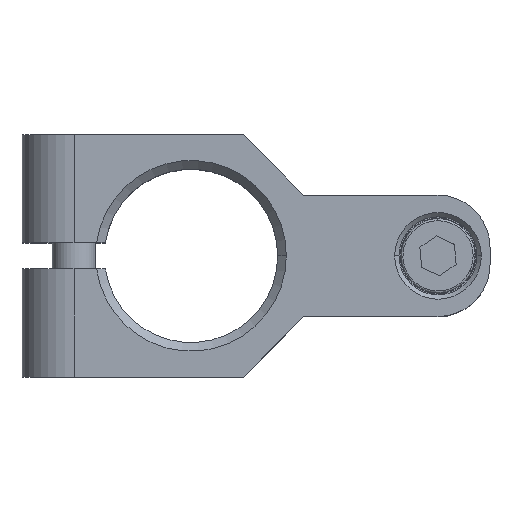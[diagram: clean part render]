
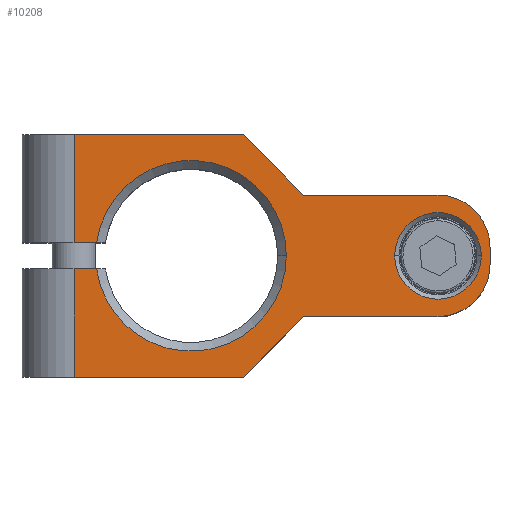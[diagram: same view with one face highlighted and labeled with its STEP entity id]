
A CAD part, top view. The second image highlights one B-rep face of the part: STEP entity #10208.
In plain terms, the highlighted planar face has unit normal (0, 0, 1).
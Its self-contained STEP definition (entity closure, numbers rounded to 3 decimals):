
#20 = VECTOR ( 'NONE', #1610, 1000. ) ;
#116 = ORIENTED_EDGE ( 'NONE', *, *, #12884, .F. ) ;
#213 = CARTESIAN_POINT ( 'NONE',  ( -15.556, 11.163, 9.5 ) ) ;
#309 = AXIS2_PLACEMENT_3D ( 'NONE', #6648, #19319, #8435 ) ;
#373 = CARTESIAN_POINT ( 'NONE',  ( -39.556, 26.663, 9.5 ) ) ;
#493 = CARTESIAN_POINT ( 'NONE',  ( 2.444, 12.663, 9.5 ) ) ;
#746 = EDGE_CURVE ( 'NONE', #13870, #18005, #5493, .T. ) ;
#819 = DIRECTION ( 'NONE',  ( 0., 0., 1. ) ) ;
#975 = DIRECTION ( 'NONE',  ( 1., 0., 0. ) ) ;
#1004 = EDGE_CURVE ( 'NONE', #2306, #18501, #6048, .T. ) ;
#1060 = CARTESIAN_POINT ( 'NONE',  ( -26.056, 12.663, 9.5 ) ) ;
#1142 = VERTEX_POINT ( 'NONE', #18780 ) ;
#1179 = DIRECTION ( 'NONE',  ( -1., 0., 0. ) ) ;
#1347 = CARTESIAN_POINT ( 'NONE',  ( -20.056, 26.663, 9.5 ) ) ;
#1497 = EDGE_CURVE ( 'NONE', #8420, #8705, #19043, .T. ) ;
#1610 = DIRECTION ( 'NONE',  ( 0., 1., 0. ) ) ;
#1637 = CARTESIAN_POINT ( 'NONE',  ( 8.444, 11.663, 9.5 ) ) ;
#2019 = AXIS2_PLACEMENT_3D ( 'NONE', #7343, #20011, #9150 ) ;
#2101 = DIRECTION ( 'NONE',  ( -1., 0., 0. ) ) ;
#2103 = ORIENTED_EDGE ( 'NONE', *, *, #746, .F. ) ;
#2236 = EDGE_CURVE ( 'NONE', #2692, #18965, #3692, .T. ) ;
#2306 = VERTEX_POINT ( 'NONE', #7482 ) ;
#2361 = DIRECTION ( 'NONE',  ( 1., 0., 0. ) ) ;
#2692 = VERTEX_POINT ( 'NONE', #1637 ) ;
#3238 = AXIS2_PLACEMENT_3D ( 'NONE', #3519, #16190, #5351 ) ;
#3373 = VECTOR ( 'NONE', #22450, 1000. ) ;
#3465 = EDGE_CURVE ( 'NONE', #18965, #2306, #22355, .T. ) ;
#3519 = CARTESIAN_POINT ( 'NONE',  ( 8.444, -1.337, 9.5 ) ) ;
#3520 = DIRECTION ( 'NONE',  ( 1., 0., 0. ) ) ;
#3594 = DIRECTION ( 'NONE',  ( 0., 0., 1. ) ) ;
#3683 = CARTESIAN_POINT ( 'NONE',  ( 2.444, 12.663, 9.5 ) ) ;
#3692 = CIRCLE ( 'NONE', #16354, 6. ) ;
#4304 = CARTESIAN_POINT ( 'NONE',  ( 8.444, 12.663, 9.5 ) ) ;
#4884 = CARTESIAN_POINT ( 'NONE',  ( -39.556, 14.163, 9.5 ) ) ;
#5010 = DIRECTION ( 'NONE',  ( 0.707, -0.707, 0. ) ) ;
#5018 = VECTOR ( 'NONE', #2101, 1000. ) ;
#5214 = ORIENTED_EDGE ( 'NONE', *, *, #17713, .F. ) ;
#5258 = CARTESIAN_POINT ( 'NONE',  ( -36.953, 11.163, 9.5 ) ) ;
#5351 = DIRECTION ( 'NONE',  ( -1., 0., 0. ) ) ;
#5462 = EDGE_CURVE ( 'NONE', #8000, #1142, #8153, .T. ) ;
#5493 = CIRCLE ( 'NONE', #6972, 11. ) ;
#5571 = LINE ( 'NONE', #11300, #5018 ) ;
#5743 = EDGE_CURVE ( 'NONE', #6870, #8000, #10372, .T. ) ;
#6027 = EDGE_LOOP ( 'NONE', ( #7207, #13741, #5214, #2103, #17123, #116, #15106, #18000, #9473, #10616, #16571, #11265, #18348, #18931, #6172 ) ) ;
#6048 = LINE ( 'NONE', #13155, #19933 ) ;
#6172 = ORIENTED_EDGE ( 'NONE', *, *, #11561, .F. ) ;
#6648 = CARTESIAN_POINT ( 'NONE',  ( 2.444, 13.663, 9.5 ) ) ;
#6763 = DIRECTION ( 'NONE',  ( 1., 0., 0. ) ) ;
#6779 = VERTEX_POINT ( 'NONE', #14196 ) ;
#6870 = VERTEX_POINT ( 'NONE', #9343 ) ;
#6972 = AXIS2_PLACEMENT_3D ( 'NONE', #1060, #819, #975 ) ;
#7175 = EDGE_CURVE ( 'NONE', #9929, #13870, #8395, .T. ) ;
#7207 = ORIENTED_EDGE ( 'NONE', *, *, #22040, .F. ) ;
#7343 = CARTESIAN_POINT ( 'NONE',  ( -26.056, 12.663, 9.5 ) ) ;
#7415 = EDGE_CURVE ( 'NONE', #18501, #15048, #15134, .T. ) ;
#7482 = CARTESIAN_POINT ( 'NONE',  ( -13.056, 5.663, 9.5 ) ) ;
#7756 = EDGE_CURVE ( 'NONE', #6779, #17027, #5571, .T. ) ;
#8000 = VERTEX_POINT ( 'NONE', #10149 ) ;
#8031 = VECTOR ( 'NONE', #9536, 1000. ) ;
#8153 = LINE ( 'NONE', #21262, #12430 ) ;
#8395 = LINE ( 'NONE', #213, #18040 ) ;
#8420 = VERTEX_POINT ( 'NONE', #9167 ) ;
#8435 = DIRECTION ( 'NONE',  ( -1., 0., 0. ) ) ;
#8437 = VECTOR ( 'NONE', #1179, 1000. ) ;
#8705 = VERTEX_POINT ( 'NONE', #10178 ) ;
#8754 = VECTOR ( 'NONE', #12758, 1000. ) ;
#8759 = VERTEX_POINT ( 'NONE', #10332 ) ;
#9150 = DIRECTION ( 'NONE',  ( 1., 0., 0. ) ) ;
#9167 = CARTESIAN_POINT ( 'NONE',  ( 7.444, 12.663, 9.5 ) ) ;
#9169 = DIRECTION ( 'NONE',  ( 1., 0., 0. ) ) ;
#9343 = CARTESIAN_POINT ( 'NONE',  ( -20.056, 26.663, 9.5 ) ) ;
#9473 = ORIENTED_EDGE ( 'NONE', *, *, #3465, .F. ) ;
#9536 = DIRECTION ( 'NONE',  ( 1., 0., 0. ) ) ;
#9812 = AXIS2_PLACEMENT_3D ( 'NONE', #493, #13213, #2361 ) ;
#9929 = VERTEX_POINT ( 'NONE', #22509 ) ;
#10021 = DIRECTION ( 'NONE',  ( -1., 0., 0. ) ) ;
#10149 = CARTESIAN_POINT ( 'NONE',  ( -13.056, 19.663, 9.5 ) ) ;
#10178 = CARTESIAN_POINT ( 'NONE',  ( -2.556, 12.663, 9.5 ) ) ;
#10208 = ADVANCED_FACE ( 'NONE', ( #17234, #22082 ), #19771, .F. ) ;
#10332 = CARTESIAN_POINT ( 'NONE',  ( 8.444, 13.663, 9.5 ) ) ;
#10338 = VECTOR ( 'NONE', #10021, 1000. ) ;
#10372 = LINE ( 'NONE', #1347, #14596 ) ;
#10616 = ORIENTED_EDGE ( 'NONE', *, *, #2236, .F. ) ;
#11265 = ORIENTED_EDGE ( 'NONE', *, *, #12757, .F. ) ;
#11300 = CARTESIAN_POINT ( 'NONE',  ( -15.556, 14.163, 9.5 ) ) ;
#11561 = EDGE_CURVE ( 'NONE', #23198, #6870, #17665, .T. ) ;
#12086 = CARTESIAN_POINT ( 'NONE',  ( -15.556, 5.663, 9.5 ) ) ;
#12132 = DIRECTION ( 'NONE',  ( -0.707, -0.707, 0. ) ) ;
#12430 = VECTOR ( 'NONE', #6763, 1000. ) ;
#12466 = LINE ( 'NONE', #4304, #3373 ) ;
#12757 = EDGE_CURVE ( 'NONE', #1142, #8759, #22462, .T. ) ;
#12758 = DIRECTION ( 'NONE',  ( 0., 1., 0. ) ) ;
#12884 = EDGE_CURVE ( 'NONE', #15048, #9929, #19325, .T. ) ;
#13155 = CARTESIAN_POINT ( 'NONE',  ( -13.056, 5.663, 9.5 ) ) ;
#13213 = DIRECTION ( 'NONE',  ( 0., 0., 1. ) ) ;
#13595 = LINE ( 'NONE', #19940, #8754 ) ;
#13741 = ORIENTED_EDGE ( 'NONE', *, *, #7756, .F. ) ;
#13870 = VERTEX_POINT ( 'NONE', #5258 ) ;
#14196 = CARTESIAN_POINT ( 'NONE',  ( -36.953, 14.163, 9.5 ) ) ;
#14499 = EDGE_CURVE ( 'NONE', #8759, #2692, #12466, .T. ) ;
#14530 = ORIENTED_EDGE ( 'NONE', *, *, #1497, .F. ) ;
#14596 = VECTOR ( 'NONE', #5010, 1000. ) ;
#14952 = EDGE_CURVE ( 'NONE', #8705, #8420, #17756, .T. ) ;
#15048 = VERTEX_POINT ( 'NONE', #16996 ) ;
#15106 = ORIENTED_EDGE ( 'NONE', *, *, #7415, .F. ) ;
#15134 = LINE ( 'NONE', #20910, #10338 ) ;
#16190 = DIRECTION ( 'NONE',  ( 0., 0., -1. ) ) ;
#16354 = AXIS2_PLACEMENT_3D ( 'NONE', #22208, #22140, #21921 ) ;
#16571 = ORIENTED_EDGE ( 'NONE', *, *, #14499, .F. ) ;
#16996 = CARTESIAN_POINT ( 'NONE',  ( -39.556, -1.337, 9.5 ) ) ;
#17024 = CARTESIAN_POINT ( 'NONE',  ( 2.444, 5.663, 9.5 ) ) ;
#17027 = VERTEX_POINT ( 'NONE', #4884 ) ;
#17123 = ORIENTED_EDGE ( 'NONE', *, *, #7175, .F. ) ;
#17234 = FACE_BOUND ( 'NONE', #23184, .T. ) ;
#17665 = LINE ( 'NONE', #20413, #8031 ) ;
#17713 = EDGE_CURVE ( 'NONE', #18005, #6779, #19713, .T. ) ;
#17756 = CIRCLE ( 'NONE', #9812, 5. ) ;
#18000 = ORIENTED_EDGE ( 'NONE', *, *, #1004, .F. ) ;
#18005 = VERTEX_POINT ( 'NONE', #22710 ) ;
#18040 = VECTOR ( 'NONE', #9169, 1000. ) ;
#18348 = ORIENTED_EDGE ( 'NONE', *, *, #5462, .F. ) ;
#18501 = VERTEX_POINT ( 'NONE', #20775 ) ;
#18780 = CARTESIAN_POINT ( 'NONE',  ( 2.444, 19.663, 9.5 ) ) ;
#18931 = ORIENTED_EDGE ( 'NONE', *, *, #5743, .F. ) ;
#18965 = VERTEX_POINT ( 'NONE', #17024 ) ;
#19043 = CIRCLE ( 'NONE', #20486, 5. ) ;
#19319 = DIRECTION ( 'NONE',  ( 0., 0., -1. ) ) ;
#19325 = LINE ( 'NONE', #21542, #20 ) ;
#19713 = CIRCLE ( 'NONE', #2019, 11. ) ;
#19771 = PLANE ( 'NONE',  #3238 ) ;
#19933 = VECTOR ( 'NONE', #12132, 1000. ) ;
#19940 = CARTESIAN_POINT ( 'NONE',  ( -39.556, 12.663, 9.5 ) ) ;
#20011 = DIRECTION ( 'NONE',  ( 0., 0., 1. ) ) ;
#20413 = CARTESIAN_POINT ( 'NONE',  ( -15.556, 26.663, 9.5 ) ) ;
#20486 = AXIS2_PLACEMENT_3D ( 'NONE', #3683, #3594, #3520 ) ;
#20523 = ORIENTED_EDGE ( 'NONE', *, *, #14952, .F. ) ;
#20775 = CARTESIAN_POINT ( 'NONE',  ( -20.056, -1.337, 9.5 ) ) ;
#20910 = CARTESIAN_POINT ( 'NONE',  ( -15.556, -1.337, 9.5 ) ) ;
#21262 = CARTESIAN_POINT ( 'NONE',  ( -15.556, 19.663, 9.5 ) ) ;
#21542 = CARTESIAN_POINT ( 'NONE',  ( -39.556, 12.663, 9.5 ) ) ;
#21921 = DIRECTION ( 'NONE',  ( -1., 0., 0. ) ) ;
#22040 = EDGE_CURVE ( 'NONE', #17027, #23198, #13595, .T. ) ;
#22082 = FACE_OUTER_BOUND ( 'NONE', #6027, .T. ) ;
#22140 = DIRECTION ( 'NONE',  ( 0., 0., -1. ) ) ;
#22208 = CARTESIAN_POINT ( 'NONE',  ( 2.444, 11.663, 9.5 ) ) ;
#22355 = LINE ( 'NONE', #12086, #8437 ) ;
#22450 = DIRECTION ( 'NONE',  ( 0., -1., 0. ) ) ;
#22462 = CIRCLE ( 'NONE', #309, 6. ) ;
#22509 = CARTESIAN_POINT ( 'NONE',  ( -39.556, 11.163, 9.5 ) ) ;
#22710 = CARTESIAN_POINT ( 'NONE',  ( -15.056, 12.663, 9.5 ) ) ;
#23184 = EDGE_LOOP ( 'NONE', ( #14530, #20523 ) ) ;
#23198 = VERTEX_POINT ( 'NONE', #373 ) ;
